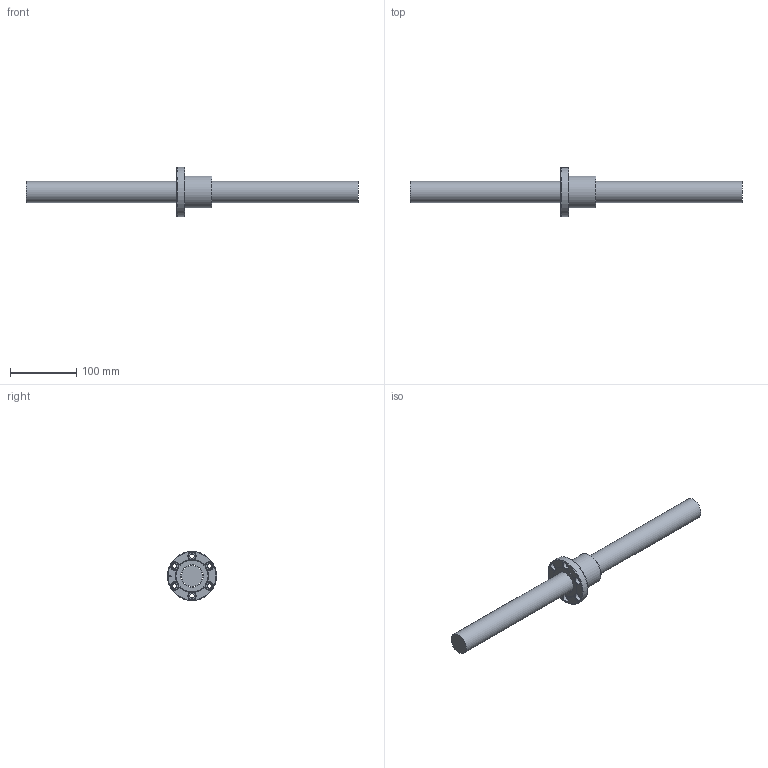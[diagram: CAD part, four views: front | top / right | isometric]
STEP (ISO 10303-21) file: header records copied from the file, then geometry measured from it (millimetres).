
FILE_DESCRIPTION (( 'STEP AP203' ), '1' );
FILE_NAME ('SFM0325TN-4.step', '2024-05-16T02:46:42', ( '' ), ( '' ), 'SwSTEP 2.0', 'SolidWorks 2022', '' );
FILE_SCHEMA (( 'CONFIG_CONTROL_DESIGN' ));
Length unit declared in the file: millimetre
Products named in the file (1): SFM0325TN-4
Bounding box: 500 x 74 x 74 mm (x, y, z)
Volume: 472466.2 mm3; surface area: 74856.3 mm2
Topology: 2 solids, 2 shells, 80 faces, 212 edges, 137 vertices
Faces by surface type: cylinder 35, plane 18, cone 13, torus 9, bspline 5
Full cylindrical faces by diameter (mm): 4 x1, 6.6 x6, 7 x5, 11 x6, 32 x1, 34.1 x1, 48 x1, 74 x1
Entity records: 4427 total; most frequent: CARTESIAN_POINT 2749, DIRECTION 326, ORIENTED_EDGE 296, AXIS2_PLACEMENT_3D 161, EDGE_CURVE 148, EDGE_LOOP 128, VERTEX_POINT 114, FACE_OUTER_BOUND 97
